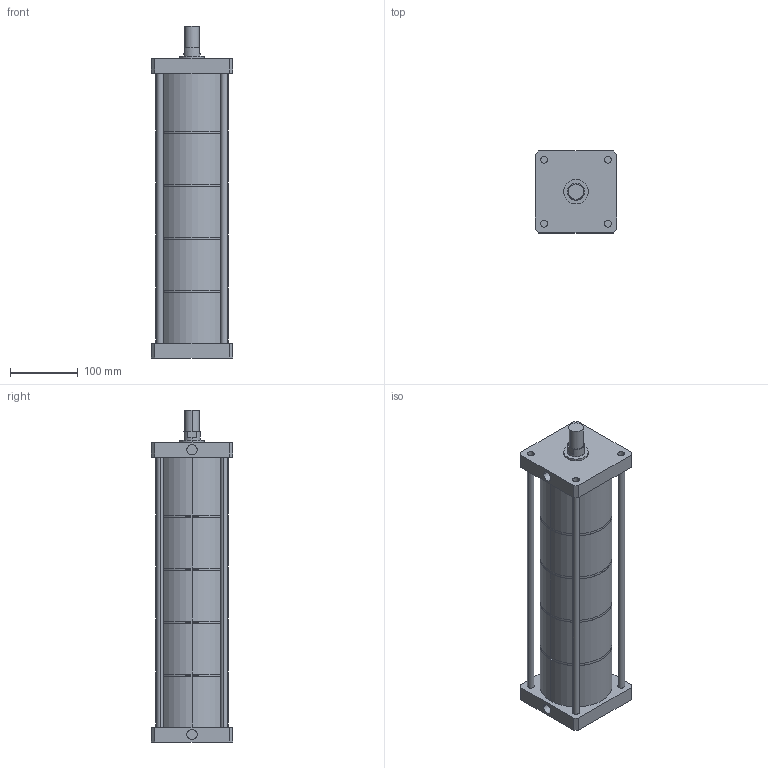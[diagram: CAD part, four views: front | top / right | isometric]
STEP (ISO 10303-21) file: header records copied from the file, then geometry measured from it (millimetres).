
FILE_DESCRIPTION (( 'STEP AP203' ), '1' );
FILE_NAME ('MHK-100-50-E-5.STEP', '2016-03-31T03:29:31', ( 'WIN' ), ( '' ), 'SwSTEP 2.0', 'SolidWorks 2014', '' );
FILE_SCHEMA (( 'CONFIG_CONTROL_DESIGN' ));
Length unit declared in the file: millimetre
Products named in the file (1): MHK-100-50-E-5
Bounding box: 120 x 120 x 488.5 mm (x, y, z)
Volume: 1252756 mm3; surface area: 475988.7 mm2
Topology: 14 solids, 14 shells, 182 faces, 392 edges, 260 vertices
Faces by surface type: plane 100, cylinder 82
Entity records: 5083 total; most frequent: DIRECTION 934, CARTESIAN_POINT 835, ORIENTED_EDGE 784, EDGE_CURVE 392, AXIS2_PLACEMENT_3D 359, VERTEX_POINT 260, EDGE_LOOP 220, LINE 216
